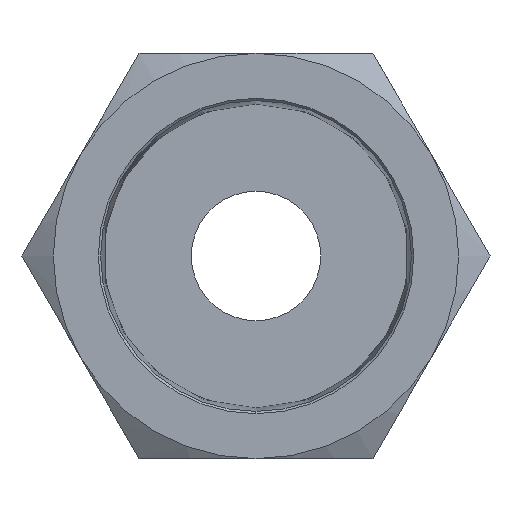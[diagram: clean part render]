
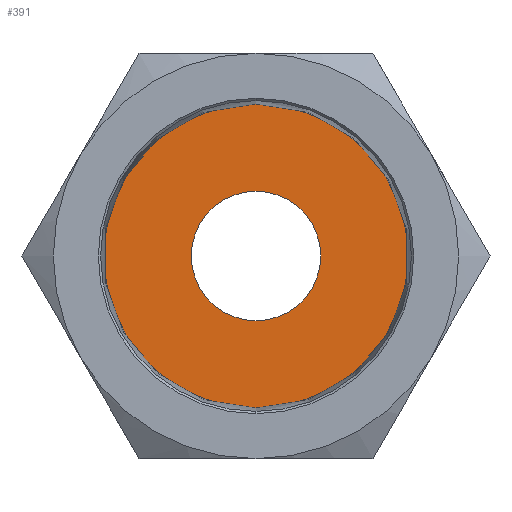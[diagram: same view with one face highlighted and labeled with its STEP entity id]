
A CAD part, left-side view. The second image highlights one B-rep face of the part: STEP entity #391.
In plain terms, the highlighted planar face has unit normal (-1, 0, 0).
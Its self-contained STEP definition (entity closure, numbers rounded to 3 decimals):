
#29 = EDGE_CURVE ( 'NONE', #30, #31, #576, .T. ) ;
#30 = VERTEX_POINT ( 'NONE', #571 ) ;
#31 = VERTEX_POINT ( 'NONE', #570 ) ;
#95 = EDGE_CURVE ( 'NONE', #96, #97, #920, .T. ) ;
#96 = VERTEX_POINT ( 'NONE', #915 ) ;
#97 = VERTEX_POINT ( 'NONE', #914 ) ;
#314 = EDGE_CURVE ( 'NONE', #97, #96, #1281, .T. ) ;
#373 = ORIENTED_EDGE ( 'NONE', *, *, #29, .T. ) ;
#374 = EDGE_LOOP ( 'NONE', ( #375, #376 ) ) ;
#375 = ORIENTED_EDGE ( 'NONE', *, *, #314, .T. ) ;
#376 = ORIENTED_EDGE ( 'NONE', *, *, #95, .T. ) ;
#391 = ADVANCED_FACE ( 'NONE', ( #1332, #1239 ), #1238, .T. ) ;
#392 = EDGE_LOOP ( 'NONE', ( #393, #373 ) ) ;
#393 = ORIENTED_EDGE ( 'NONE', *, *, #394, .T. ) ;
#394 = EDGE_CURVE ( 'NONE', #31, #30, #1232, .T. ) ;
#570 = CARTESIAN_POINT ( 'NONE',  ( 6.1, 0., 8.336 ) ) ;
#571 = CARTESIAN_POINT ( 'NONE',  ( 6.1, 0., -8.336 ) ) ;
#572 = DIRECTION ( 'NONE',  ( 0., 0., 1. ) ) ;
#573 = DIRECTION ( 'NONE',  ( -1., 0., 0. ) ) ;
#574 = CARTESIAN_POINT ( 'NONE',  ( 6.1, 0., 0. ) ) ;
#575 = AXIS2_PLACEMENT_3D ( 'NONE', #574, #573, #572 ) ;
#576 = CIRCLE ( 'NONE', #575, 8.336 ) ;
#914 = CARTESIAN_POINT ( 'NONE',  ( 6.1, 0., -3.55 ) ) ;
#915 = CARTESIAN_POINT ( 'NONE',  ( 6.1, 0., 3.55 ) ) ;
#916 = DIRECTION ( 'NONE',  ( 0., 0., 1. ) ) ;
#917 = DIRECTION ( 'NONE',  ( 1., 0., 0. ) ) ;
#918 = CARTESIAN_POINT ( 'NONE',  ( 6.1, 0., 0. ) ) ;
#919 = AXIS2_PLACEMENT_3D ( 'NONE', #918, #917, #916 ) ;
#920 = CIRCLE ( 'NONE', #919, 3.55 ) ;
#1229 = DIRECTION ( 'NONE',  ( 0., 0., 1. ) ) ;
#1230 = DIRECTION ( 'NONE',  ( -1., 0., 0. ) ) ;
#1231 = AXIS2_PLACEMENT_3D ( 'NONE', #1237, #1230, #1229 ) ;
#1232 = CIRCLE ( 'NONE', #1231, 8.336 ) ;
#1233 = DIRECTION ( 'NONE',  ( 0., 0., 1. ) ) ;
#1234 = DIRECTION ( 'NONE',  ( -1., 0., 0. ) ) ;
#1235 = CARTESIAN_POINT ( 'NONE',  ( 6.1, 0., 0. ) ) ;
#1236 = AXIS2_PLACEMENT_3D ( 'NONE', #1235, #1234, #1233 ) ;
#1237 = CARTESIAN_POINT ( 'NONE',  ( 6.1, 0., 0. ) ) ;
#1238 = PLANE ( 'NONE',  #1236 ) ;
#1239 = FACE_BOUND ( 'NONE', #374, .T. ) ;
#1274 = DIRECTION ( 'NONE',  ( 0., 0., 1. ) ) ;
#1275 = DIRECTION ( 'NONE',  ( 1., 0., 0. ) ) ;
#1276 = CARTESIAN_POINT ( 'NONE',  ( 6.1, 0., 0. ) ) ;
#1277 = AXIS2_PLACEMENT_3D ( 'NONE', #1276, #1275, #1274 ) ;
#1281 = CIRCLE ( 'NONE', #1277, 3.55 ) ;
#1332 = FACE_OUTER_BOUND ( 'NONE', #392, .T. ) ;
